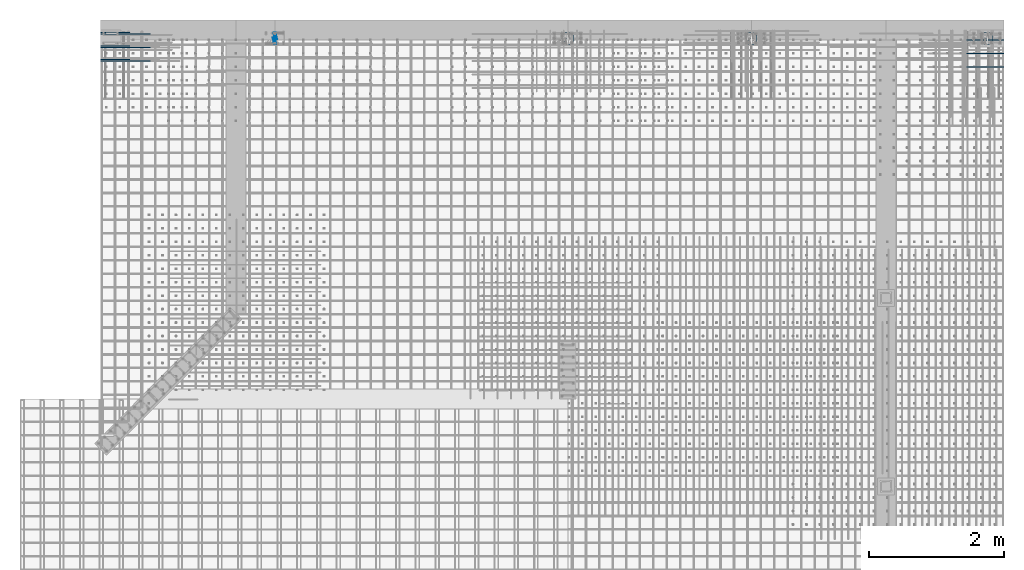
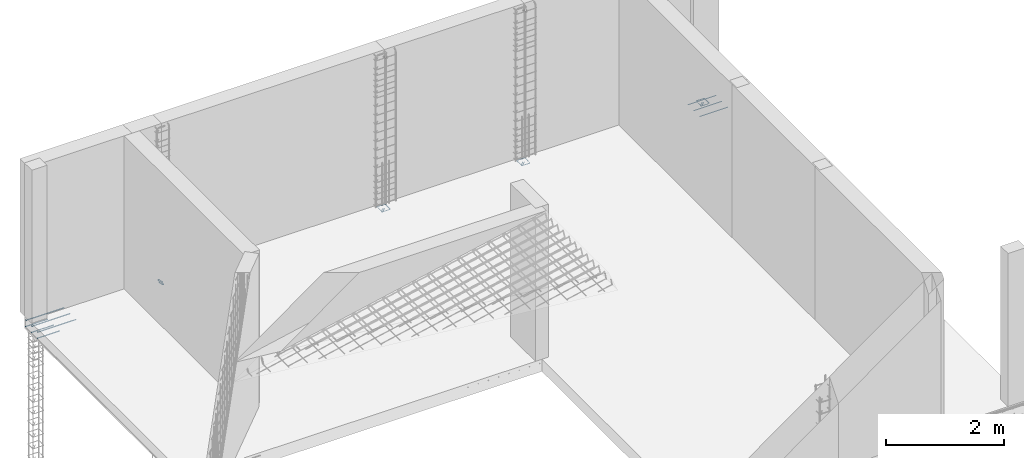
# One storey, part 17 of 17: 7 reinforcing bars.
"""IFC4 building model written with IfcOpenShell, lengths in metres."""

from ifc_helpers import new_model, entity, si_unit, frame, origin_with_axes, place, context, project, spatial, source, transform, mapped, element, save


model = new_model("IFC4")

# Units and contexts
model_context = context("Model", 3, precision=1e-05, world=origin_with_axes())
ifc_project = project(units=[si_unit("LENGTHUNIT", "METRE"), si_unit("AREAUNIT", "SQUARE_METRE"), si_unit("VOLUMEUNIT", "CUBIC_METRE"), si_unit("MASSUNIT", "GRAM", prefix="KILO"), si_unit("TIMEUNIT", "SECOND"), si_unit("PLANEANGLEUNIT", "RADIAN"), si_unit("SOLIDANGLEUNIT", "STERADIAN"), si_unit("THERMODYNAMICTEMPERATUREUNIT", "DEGREE_CELSIUS")], contexts=[model_context])

# Site, building, storey
placement_1 = place(None, origin_with_axes())
site = spatial("IfcSite", under=ifc_project, at=placement_1, Name="Italia", CompositionType="ELEMENT")
building = spatial("IfcBuilding", under=site, at=placement_1, Name="Abitazione", CompositionType="ELEMENT")
storey_placement = place(None, frame((0.0, 0.0, 3.569999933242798), z_axis=(0.0, 0.0, 1.0), x_axis=(1.0, 0.0, 0.0)))
storey = spatial("IfcBuildingStorey", under=building, at=storey_placement, Name="Storey 1", CompositionType="ELEMENT", Elevation=3.569999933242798)

# Reinforcing bars
shared_shape_1 = source(origin_with_axes(), model_context, "Body", "AdvancedSweptSolid", [
    entity("IfcSweptDiskSolid", entity("IfcIndexedPolyCurve", entity("IfcCartesianPointList3D", [[3.80863, 11.2844, 3.439], [3.79098, 11.3727, 3.439], [3.78949, 11.3763, 3.439], [3.78672, 11.379, 3.439], [3.78312, 11.3805, 3.439], [3.77922, 11.3805, 3.439], [3.77333, 11.3793, 3.439], [3.76973, 11.3778, 3.439], [3.76697, 11.3751, 3.439], [3.76548, 11.3715, 3.439], [3.76549, 11.3676, 3.439], [3.79451, 11.2224, 3.439], [3.79452, 11.2185, 3.439], [3.79303, 11.2149, 3.439], [3.79027, 11.2122, 3.439], [3.78667, 11.2107, 3.439], [3.78078, 11.2095, 3.439], [3.77688, 11.2095, 3.439], [3.77328, 11.211, 3.439], [3.77051, 11.2137, 3.439], [3.76902, 11.2173, 3.439], [3.75137, 11.3056, 3.439]]), [entity("IfcLineIndex", [1, 2]), entity("IfcLineIndex", [2, 3]), entity("IfcLineIndex", [3, 4]), entity("IfcLineIndex", [4, 5]), entity("IfcLineIndex", [5, 6]), entity("IfcLineIndex", [6, 7]), entity("IfcLineIndex", [7, 8]), entity("IfcLineIndex", [8, 9]), entity("IfcLineIndex", [9, 10]), entity("IfcLineIndex", [10, 11]), entity("IfcLineIndex", [11, 12]), entity("IfcLineIndex", [12, 13]), entity("IfcLineIndex", [13, 14]), entity("IfcLineIndex", [14, 15]), entity("IfcLineIndex", [15, 16]), entity("IfcLineIndex", [16, 17]), entity("IfcLineIndex", [17, 18]), entity("IfcLineIndex", [18, 19]), entity("IfcLineIndex", [19, 20]), entity("IfcLineIndex", [20, 21]), entity("IfcLineIndex", [21, 22])], False), 0.003),
])
placement_2 = place(placement_1, origin_with_axes())
reinforcing_bar_1_placement = place(placement_2, origin_with_axes())
element("IfcReinforcingBar", 1, at=reinforcing_bar_1_placement, inside=storey, BarLength=0.40243, CrossSectionArea=2.8274e-05, NominalDiameter=0.006, context=model_context, shape_type="MappedRepresentation", body=[
    mapped(shared_shape_1, transform((0.0, 0.0, 0.0), x_axis=(1.0, 0.0, 0.0), y_axis=(0.0, 1.0, 0.0), z_axis=(0.0, 0.0, 1.0), scale=1.0)),
])
shared_shape_2 = source(origin_with_axes(), model_context, "Body", "AdvancedSweptSolid", [
    entity("IfcSweptDiskSolid", entity("IfcIndexedPolyCurve", entity("IfcCartesianPointList3D", [[8.14021, 11.2807, 3.448], [8.07243, 11.2129, 3.44714], [8.06536, 11.21, 3.44707], [8.06, 11.21, 3.44702], [8.05617, 11.2108, 3.44699], [8.05293, 11.2129, 3.44695], [8.05076, 11.2162, 3.44692], [8.05, 11.22, 3.44688], [8.05, 11.37, 3.44554], [8.05076, 11.3738, 3.4455], [8.05293, 11.3771, 3.44547], [8.05617, 11.3792, 3.44543], [8.06, 11.38, 3.4454], [8.2, 11.38, 3.44414], [8.20383, 11.3792, 3.44411], [8.20707, 11.3771, 3.44407], [8.20924, 11.3738, 3.44404], [8.21, 11.37, 3.444], [8.21, 11.22, 3.44266], [8.20924, 11.2162, 3.44262], [8.20707, 11.2129, 3.44259], [8.20383, 11.2108, 3.44255], [8.2, 11.21, 3.44252], [8.06, 11.21, 3.44126], [8.05617, 11.2108, 3.44122], [8.05293, 11.2129, 3.44119], [8.05076, 11.2162, 3.44115], [8.05, 11.22, 3.44112], [8.05, 11.2254, 3.44107], [8.05293, 11.2324, 3.441], [8.12071, 11.3002, 3.44014]]), [entity("IfcLineIndex", [1, 2]), entity("IfcLineIndex", [2, 3]), entity("IfcLineIndex", [3, 4]), entity("IfcLineIndex", [4, 5]), entity("IfcLineIndex", [5, 6]), entity("IfcLineIndex", [6, 7]), entity("IfcLineIndex", [7, 8]), entity("IfcLineIndex", [8, 9]), entity("IfcLineIndex", [9, 10]), entity("IfcLineIndex", [10, 11]), entity("IfcLineIndex", [11, 12]), entity("IfcLineIndex", [12, 13]), entity("IfcLineIndex", [13, 14]), entity("IfcLineIndex", [14, 15]), entity("IfcLineIndex", [15, 16]), entity("IfcLineIndex", [16, 17]), entity("IfcLineIndex", [17, 18]), entity("IfcLineIndex", [18, 19]), entity("IfcLineIndex", [19, 20]), entity("IfcLineIndex", [20, 21]), entity("IfcLineIndex", [21, 22]), entity("IfcLineIndex", [22, 23]), entity("IfcLineIndex", [23, 24]), entity("IfcLineIndex", [24, 25]), entity("IfcLineIndex", [25, 26]), entity("IfcLineIndex", [26, 27]), entity("IfcLineIndex", [27, 28]), entity("IfcLineIndex", [28, 29]), entity("IfcLineIndex", [29, 30]), entity("IfcLineIndex", [30, 31])], False), 0.003),
])
reinforcing_bar_2_placement = place(placement_2, origin_with_axes())
element("IfcReinforcingBar", 2, at=reinforcing_bar_2_placement, inside=storey, BarLength=0.875812, CrossSectionArea=2.8274e-05, NominalDiameter=0.006, context=model_context, shape_type="MappedRepresentation", body=[
    mapped(shared_shape_2, transform((0.0, 0.0, 0.0), x_axis=(1.0, 0.0, 0.0), y_axis=(0.0, 1.0, 0.0), z_axis=(0.0, 0.0, 1.0), scale=1.0)),
])
shared_shape_3 = source(origin_with_axes(), model_context, "Body", "AdvancedSweptSolid", [
    entity("IfcSweptDiskSolid", entity("IfcIndexedPolyCurve", entity("IfcCartesianPointList3D", [[10.8702, 11.2807, 3.448], [10.8024, 11.2129, 3.44714], [10.7954, 11.21, 3.44707], [10.79, 11.21, 3.44702], [10.7862, 11.2108, 3.44699], [10.7829, 11.2129, 3.44695], [10.7808, 11.2162, 3.44692], [10.78, 11.22, 3.44688], [10.78, 11.37, 3.44554], [10.7808, 11.3738, 3.4455], [10.7829, 11.3771, 3.44547], [10.7862, 11.3792, 3.44543], [10.79, 11.38, 3.4454], [10.93, 11.38, 3.44414], [10.9338, 11.3792, 3.44411], [10.9371, 11.3771, 3.44407], [10.9392, 11.3738, 3.44404], [10.94, 11.37, 3.444], [10.94, 11.22, 3.44266], [10.9392, 11.2162, 3.44262], [10.9371, 11.2129, 3.44259], [10.9338, 11.2108, 3.44255], [10.93, 11.21, 3.44252], [10.79, 11.21, 3.44126], [10.7862, 11.2108, 3.44122], [10.7829, 11.2129, 3.44119], [10.7808, 11.2162, 3.44115], [10.78, 11.22, 3.44112], [10.78, 11.2254, 3.44107], [10.7829, 11.2324, 3.441], [10.8507, 11.3002, 3.44014]]), [entity("IfcLineIndex", [1, 2]), entity("IfcLineIndex", [2, 3]), entity("IfcLineIndex", [3, 4]), entity("IfcLineIndex", [4, 5]), entity("IfcLineIndex", [5, 6]), entity("IfcLineIndex", [6, 7]), entity("IfcLineIndex", [7, 8]), entity("IfcLineIndex", [8, 9]), entity("IfcLineIndex", [9, 10]), entity("IfcLineIndex", [10, 11]), entity("IfcLineIndex", [11, 12]), entity("IfcLineIndex", [12, 13]), entity("IfcLineIndex", [13, 14]), entity("IfcLineIndex", [14, 15]), entity("IfcLineIndex", [15, 16]), entity("IfcLineIndex", [16, 17]), entity("IfcLineIndex", [17, 18]), entity("IfcLineIndex", [18, 19]), entity("IfcLineIndex", [19, 20]), entity("IfcLineIndex", [20, 21]), entity("IfcLineIndex", [21, 22]), entity("IfcLineIndex", [22, 23]), entity("IfcLineIndex", [23, 24]), entity("IfcLineIndex", [24, 25]), entity("IfcLineIndex", [25, 26]), entity("IfcLineIndex", [26, 27]), entity("IfcLineIndex", [27, 28]), entity("IfcLineIndex", [28, 29]), entity("IfcLineIndex", [29, 30]), entity("IfcLineIndex", [30, 31])], False), 0.003),
])
reinforcing_bar_3_placement = place(placement_2, origin_with_axes())
element("IfcReinforcingBar", 3, at=reinforcing_bar_3_placement, inside=storey, BarLength=0.875812, CrossSectionArea=2.8274e-05, NominalDiameter=0.006, context=model_context, shape_type="MappedRepresentation", body=[
    mapped(shared_shape_3, transform((0.0, 0.0, 0.0), x_axis=(1.0, 0.0, 0.0), y_axis=(0.0, 1.0, 0.0), z_axis=(0.0, 0.0, 1.0), scale=1.0)),
])
shared_shape_4 = source(origin_with_axes(), model_context, "Body", "AdvancedSweptSolid", [
    entity("IfcSweptDiskSolid", entity("IfcIndexedPolyCurve", entity("IfcCartesianPointList3D", [[14.3702, 11.2807, 3.454], [14.3024, 11.2129, 3.45314], [14.2954, 11.21, 3.45307], [14.29, 11.21, 3.45302], [14.2862, 11.2108, 3.45299], [14.2829, 11.2129, 3.45295], [14.2808, 11.2162, 3.45292], [14.28, 11.22, 3.45288], [14.28, 11.37, 3.45154], [14.2808, 11.3738, 3.4515], [14.2829, 11.3771, 3.45147], [14.2862, 11.3792, 3.45143], [14.29, 11.38, 3.4514], [14.43, 11.38, 3.45014], [14.4338, 11.3792, 3.45011], [14.4371, 11.3771, 3.45007], [14.4392, 11.3738, 3.45004], [14.44, 11.37, 3.45], [14.44, 11.22, 3.44866], [14.4392, 11.2162, 3.44862], [14.4371, 11.2129, 3.44859], [14.4338, 11.2108, 3.44855], [14.43, 11.21, 3.44852], [14.29, 11.21, 3.44726], [14.2862, 11.2108, 3.44722], [14.2829, 11.2129, 3.44719], [14.2808, 11.2162, 3.44715], [14.28, 11.22, 3.44712], [14.28, 11.2254, 3.44707], [14.2829, 11.2324, 3.447], [14.3507, 11.3002, 3.44614]]), [entity("IfcLineIndex", [1, 2]), entity("IfcLineIndex", [2, 3]), entity("IfcLineIndex", [3, 4]), entity("IfcLineIndex", [4, 5]), entity("IfcLineIndex", [5, 6]), entity("IfcLineIndex", [6, 7]), entity("IfcLineIndex", [7, 8]), entity("IfcLineIndex", [8, 9]), entity("IfcLineIndex", [9, 10]), entity("IfcLineIndex", [10, 11]), entity("IfcLineIndex", [11, 12]), entity("IfcLineIndex", [12, 13]), entity("IfcLineIndex", [13, 14]), entity("IfcLineIndex", [14, 15]), entity("IfcLineIndex", [15, 16]), entity("IfcLineIndex", [16, 17]), entity("IfcLineIndex", [17, 18]), entity("IfcLineIndex", [18, 19]), entity("IfcLineIndex", [19, 20]), entity("IfcLineIndex", [20, 21]), entity("IfcLineIndex", [21, 22]), entity("IfcLineIndex", [22, 23]), entity("IfcLineIndex", [23, 24]), entity("IfcLineIndex", [24, 25]), entity("IfcLineIndex", [25, 26]), entity("IfcLineIndex", [26, 27]), entity("IfcLineIndex", [27, 28]), entity("IfcLineIndex", [28, 29]), entity("IfcLineIndex", [29, 30]), entity("IfcLineIndex", [30, 31])], False), 0.003),
])
reinforcing_bar_4_placement = place(placement_2, origin_with_axes())
element("IfcReinforcingBar", 4, at=reinforcing_bar_4_placement, inside=storey, BarLength=0.875812, CrossSectionArea=2.8274e-05, NominalDiameter=0.006, context=model_context, shape_type="MappedRepresentation", body=[
    mapped(shared_shape_4, transform((0.0, 0.0, 0.0), x_axis=(1.0, 0.0, 0.0), y_axis=(0.0, 1.0, 0.0), z_axis=(0.0, 0.0, 1.0), scale=1.0)),
])
shared_shape_5 = source(origin_with_axes(), model_context, "Body", "AdvancedSweptSolid", [
    entity("IfcSweptDiskSolid", entity("IfcIndexedPolyCurve", entity("IfcCartesianPointList3D", [[1.19, 10.963, 3.516], [1.92963, 10.963, 3.516]]), [entity("IfcLineIndex", [1, 2])], False), 0.006),
])
reinforcing_bar_5_placement = place(placement_2, origin_with_axes())
element("IfcReinforcingBar", 5, at=reinforcing_bar_5_placement, inside=storey, BarLength=0.73963, CrossSectionArea=0.0001131, NominalDiameter=0.012, context=model_context, shape_type="MappedRepresentation", body=[
    mapped(shared_shape_5, transform((0.0, 0.399999, 0.0), x_axis=(1.0, 0.0, 0.0), y_axis=(0.0, 1.0, 0.0), z_axis=(0.0, 0.0, 1.0), scale=1.0)),
    mapped(shared_shape_5, transform((0.0, 0.199999, 0.0), x_axis=(1.0, 0.0, 0.0), y_axis=(0.0, 1.0, 0.0), z_axis=(0.0, 0.0, 1.0), scale=1.0)),
    mapped(shared_shape_5, transform((0.0, 0.0, 0.0), x_axis=(1.0, 0.0, 0.0), y_axis=(0.0, 1.0, 0.0), z_axis=(0.0, 0.0, 1.0), scale=1.0)),
])
shared_shape_6 = source(origin_with_axes(), model_context, "Body", "AdvancedSweptSolid", [
    entity("IfcSweptDiskSolid", entity("IfcIndexedPolyCurve", entity("IfcCartesianPointList3D", [[14.0582, 10.8711, 3.516], [14.61, 10.8711, 3.516]]), [entity("IfcLineIndex", [1, 2])], False), 0.008),
])
reinforcing_bar_6_placement = place(placement_2, origin_with_axes())
element("IfcReinforcingBar", 6, at=reinforcing_bar_6_placement, inside=storey, BarLength=0.551757, CrossSectionArea=0.00020106, NominalDiameter=0.016, context=model_context, shape_type="MappedRepresentation", body=[
    mapped(shared_shape_6, transform((0.0, 0.4, 0.0), x_axis=(1.0, 0.0, 0.0), y_axis=(0.0, 1.0, 0.0), z_axis=(0.0, 0.0, 1.0), scale=1.0)),
    mapped(shared_shape_6, transform((0.0, 0.2, 0.0), x_axis=(1.0, 0.0, 0.0), y_axis=(0.0, 1.0, 0.0), z_axis=(0.0, 0.0, 1.0), scale=1.0)),
    mapped(shared_shape_6, transform((0.0, 0.0, 0.0), x_axis=(1.0, 0.0, 0.0), y_axis=(0.0, 1.0, 0.0), z_axis=(0.0, 0.0, 1.0), scale=1.0)),
])
shared_shape_7 = source(origin_with_axes(), model_context, "Body", "AdvancedSweptSolid", [
    entity("IfcSweptDiskSolid", entity("IfcIndexedPolyCurve", entity("IfcCartesianPointList3D", [[1.19, 10.985, 3.374], [1.62368, 10.985, 3.374]]), [entity("IfcLineIndex", [1, 2])], False), 0.006),
])
reinforcing_bar_7_placement = place(placement_2, origin_with_axes())
element("IfcReinforcingBar", 7, at=reinforcing_bar_7_placement, inside=storey, BarLength=0.433676, CrossSectionArea=0.0001131, NominalDiameter=0.012, context=model_context, shape_type="MappedRepresentation", body=[
    mapped(shared_shape_7, transform((0.0, 0.399999, 0.0), x_axis=(1.0, 0.0, 0.0), y_axis=(0.0, 1.0, 0.0), z_axis=(0.0, 0.0, 1.0), scale=1.0)),
    mapped(shared_shape_7, transform((0.0, 0.199999, 0.0), x_axis=(1.0, 0.0, 0.0), y_axis=(0.0, 1.0, 0.0), z_axis=(0.0, 0.0, 1.0), scale=1.0)),
    mapped(shared_shape_7, transform((0.0, 0.0, 0.0), x_axis=(1.0, 0.0, 0.0), y_axis=(0.0, 1.0, 0.0), z_axis=(0.0, 0.0, 1.0), scale=1.0)),
])

save(model, "model.ifc")
